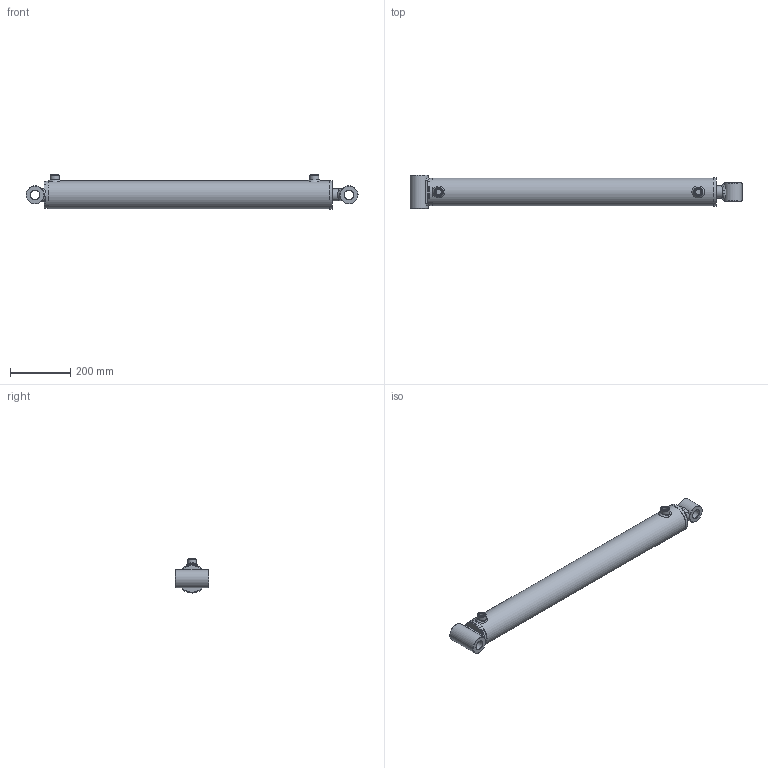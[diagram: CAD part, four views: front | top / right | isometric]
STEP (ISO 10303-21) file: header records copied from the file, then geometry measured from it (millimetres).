
FILE_DESCRIPTION( ( 'Unknown' ), '1' );
FILE_NAME( 'E:/LIBRERIA_3d/CILINDRI/HM2/HM25400800.stp', 'Unknown', ( 'Unknown' ), ( 'Unknown' ), 'PSStep 17.0.49', 'Unknown', ' ' );
FILE_SCHEMA( ( 'AUTOMOTIVE_DESIGN { 1 0 10303 214 1 1 1 1 }' ) );
Length unit declared in the file: millimetre
Products named in the file (25): CT00080027; CG09508040; STL5600800-oa4; Saldatura d'angolo 1-oa2; CBS0800000; FTM5600800-oa3; HM05400800; Saldatura con preparazione 1-oa0; Saldatura d'angolo 1-oa1; CF00080090; CDA0002720; APG0800000; SBL4050800; Assem1; CB30060060; CB30060110; Saldatura d'angolo 1-oa5; Saldatura d'angolo 2-oa6
Assembly tree (18 placements, depth 4):
  Saldatura d'angolo 1-oa2
  Saldatura d'angolo 1-oa2
  Saldatura d'angolo 1-oa1
  Saldatura d'angolo 1-oa1
  Assem1
    CB30060060
    CB30060110
    HM05400800
      Saldatura con preparazione 1-oa0
      Saldatura con preparazione 1-oa0
      CF00080090
      CBS0800000
      CDA0002720
      APG0800000  x2
      SBL4050800
      CG09508040
        CG09508040
      CT00080027
        CT00080027
      STL5600800-oa4
        CBS0800000
        FTM5600800-oa3
Bounding box: 1100 x 110 x 113 mm (x, y, z)
Volume: 3576713 mm3; surface area: 822694.9 mm2
Topology: 22 solids, 22 shells, 318 faces, 650 edges, 371 vertices
Faces by surface type: bspline 104, plane 76, cylinder 62, cone 40, torus 36
Full cylindrical faces by diameter (mm): 4.25 x1, 8 x2, 12 x1, 18.631 x2, 19.5 x2, 20.95 x2, 26 x2, 26.4 x1, 27 x5, 30 x2, 30.25 x2, 33.2 x1, 40 x5, 41 x1, 43 x3, 48.6 x1, 50 x1, 60 x3, 74.16 x2, 75 x1, 78.34 x2, 79.9 x1, 80 x1, 80.3 x1, 80.5 x1, 80.6 x1, 81 x1, 82 x3, 82.835 x1, 85 x1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
Entity records: 17315 total; most frequent: CARTESIAN_POINT 9637, ORIENTED_EDGE 872, DIRECTION 850, EDGE_LOOP 485, EDGE_CURVE 436, AXIS2_PLACEMENT_3D 406, FACE_OUTER_BOUND 406, VERTEX_POINT 320
